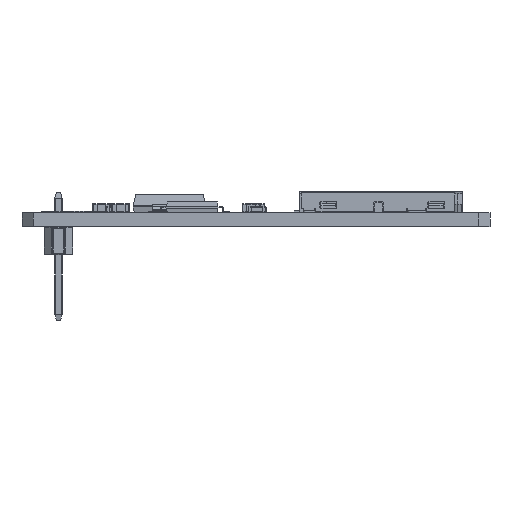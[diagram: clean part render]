
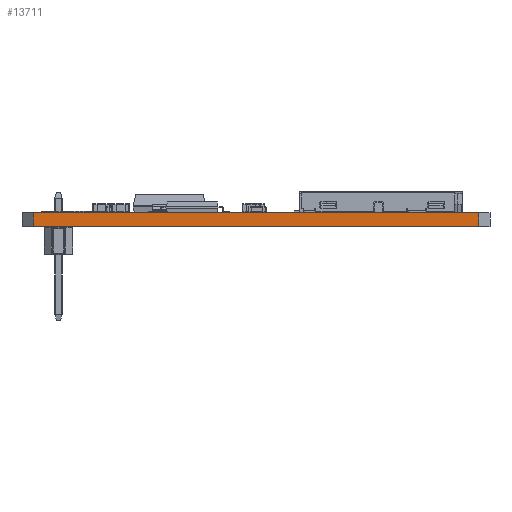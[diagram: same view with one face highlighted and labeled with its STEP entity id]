
A CAD part, left-side view. The second image highlights one B-rep face of the part: STEP entity #13711.
In plain terms, the highlighted planar face has unit normal (-1, 0, 0).
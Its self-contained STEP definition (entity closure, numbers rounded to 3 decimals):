
#4235 = VECTOR ( 'NONE', #30745, 1000. ) ;
#4237 = VECTOR ( 'NONE', #30751, 1000. ) ;
#4238 = VECTOR ( 'NONE', #30754, 1000. ) ;
#6592 = EDGE_CURVE ( 'NONE', #14667, #8893, #30743, .T. ) ;
#6594 = EDGE_CURVE ( 'NONE', #8893, #8891, #30749, .T. ) ;
#6595 = EDGE_CURVE ( 'NONE', #14665, #8891, #30752, .T. ) ;
#8891 = VERTEX_POINT ( 'NONE', #38750 ) ;
#8893 = VERTEX_POINT ( 'NONE', #38751 ) ;
#12251 = ORIENTED_EDGE ( 'NONE', *, *, #19970, .F. ) ;
#12252 = ORIENTED_EDGE ( 'NONE', *, *, #6594, .F. ) ;
#12253 = ORIENTED_EDGE ( 'NONE', *, *, #6595, .T. ) ;
#12254 = ORIENTED_EDGE ( 'NONE', *, *, #6592, .F. ) ;
#13711 = ADVANCED_FACE ( 'NONE', ( #32733 ), #42747, .F. ) ;
#14665 = VERTEX_POINT ( 'NONE', #47110 ) ;
#14667 = VERTEX_POINT ( 'NONE', #47112 ) ;
#18555 = EDGE_LOOP ( 'NONE', ( #12252, #12254, #12251, #12253 ) ) ;
#19970 = EDGE_CURVE ( 'NONE', #14665, #14667, #58442, .T. ) ;
#30743 = LINE ( 'NONE', #30744, #4235 ) ;
#30744 = CARTESIAN_POINT ( 'NONE',  ( -12., 40.8, 0. ) ) ;
#30745 = DIRECTION ( 'NONE',  ( 0., 0., 1. ) ) ;
#30749 = LINE ( 'NONE', #30750, #4237 ) ;
#30750 = CARTESIAN_POINT ( 'NONE',  ( -12., 0., 1.25 ) ) ;
#30751 = DIRECTION ( 'NONE',  ( 0., -1., 0. ) ) ;
#30752 = LINE ( 'NONE', #30753, #4238 ) ;
#30753 = CARTESIAN_POINT ( 'NONE',  ( -12., 1., -0.25 ) ) ;
#30754 = DIRECTION ( 'NONE',  ( 0., 0., 1. ) ) ;
#32733 = FACE_OUTER_BOUND ( 'NONE', #18555, .T. ) ;
#32743 = AXIS2_PLACEMENT_3D ( 'NONE', #42748, #42749, #42750 ) ;
#38750 = CARTESIAN_POINT ( 'NONE',  ( -12., 1., 1.25 ) ) ;
#38751 = CARTESIAN_POINT ( 'NONE',  ( -12., 40.8, 1.25 ) ) ;
#42747 = PLANE ( 'NONE',  #32743 ) ;
#42748 = CARTESIAN_POINT ( 'NONE',  ( -12., 0., 0. ) ) ;
#42749 = DIRECTION ( 'NONE',  ( 1., 0., 0. ) ) ;
#42750 = DIRECTION ( 'NONE',  ( 0., 0., -1. ) ) ;
#47110 = CARTESIAN_POINT ( 'NONE',  ( -12., 1., 0. ) ) ;
#47112 = CARTESIAN_POINT ( 'NONE',  ( -12., 40.8, 0. ) ) ;
#48293 = VECTOR ( 'NONE', #58444, 1000. ) ;
#58442 = LINE ( 'NONE', #58443, #48293 ) ;
#58443 = CARTESIAN_POINT ( 'NONE',  ( -12., 0., 0. ) ) ;
#58444 = DIRECTION ( 'NONE',  ( 0., 1., 0. ) ) ;
